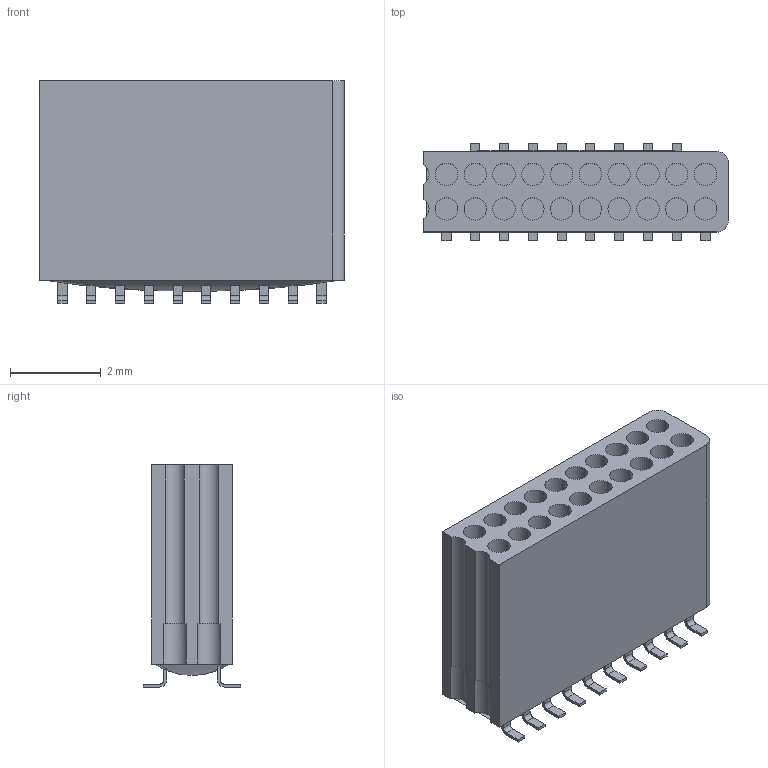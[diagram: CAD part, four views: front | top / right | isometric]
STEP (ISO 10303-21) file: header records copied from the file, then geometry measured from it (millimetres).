
FILE_DESCRIPTION (( 'STEP AP214' ), '1' );
FILE_NAME ('A79042-001 REV D.STEP', '2015-11-06T13:06:18', ( '' ), ( '' ), 'SwSTEP 2.0', 'SolidWorks 2015', '' );
FILE_SCHEMA (( 'AUTOMOTIVE_DESIGN' ));
Length unit declared in the file: inch
Products named in the file (1): A79042-001
Bounding box: 6.73 x 2.16 x 4.9 mm (x, y, z)
Volume: 35.5 mm3; surface area: 250.9 mm2
Topology: 1 solids, 1 shells, 373 faces, 934 edges, 617 vertices
Faces by surface type: plane 227, cylinder 126, bspline 20
Entity records: 11607 total; most frequent: CARTESIAN_POINT 2548, ORIENTED_EDGE 1860, DIRECTION 1854, EDGE_CURVE 930, AXIS2_PLACEMENT_3D 634, VERTEX_POINT 617, VECTOR 586, LINE 586
